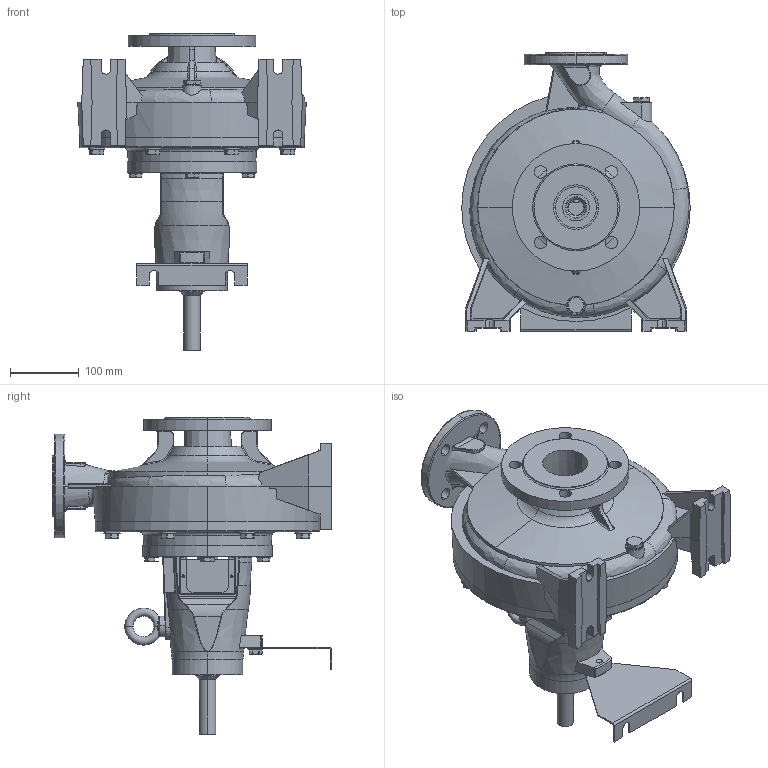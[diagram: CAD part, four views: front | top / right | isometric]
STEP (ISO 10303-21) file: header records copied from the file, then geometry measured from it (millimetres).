
FILE_DESCRIPTION (( 'STEP AP203' ), '1' );
FILE_NAME ('BSN 40 250.STEP', '2020-03-05T13:35:24', ( '' ), ( '' ), 'SwSTEP 2.0', 'SolidWorks 2019', '' );
FILE_SCHEMA (( 'CONFIG_CONTROL_DESIGN' ));
Length unit declared in the file: millimetre
Products named in the file (2): BSN 40 250
Bounding box: 331.56 x 405 x 461 mm (x, y, z)
Surface area: 660113.3 mm2 (no closed solid volume)
Topology: 0 solids, 50 shells, 823 faces, 2611 edges, 1808 vertices
Faces by surface type: plane 300, cylinder 227, cone 108, bspline 104, torus 74, sphere 10
Entity records: 39910 total; most frequent: CARTESIAN_POINT 18120, ORIENTED_EDGE 4406, DIRECTION 4196, EDGE_CURVE 2606, VERTEX_POINT 1808, AXIS2_PLACEMENT_3D 1598, LINE 1000, VECTOR 1000
